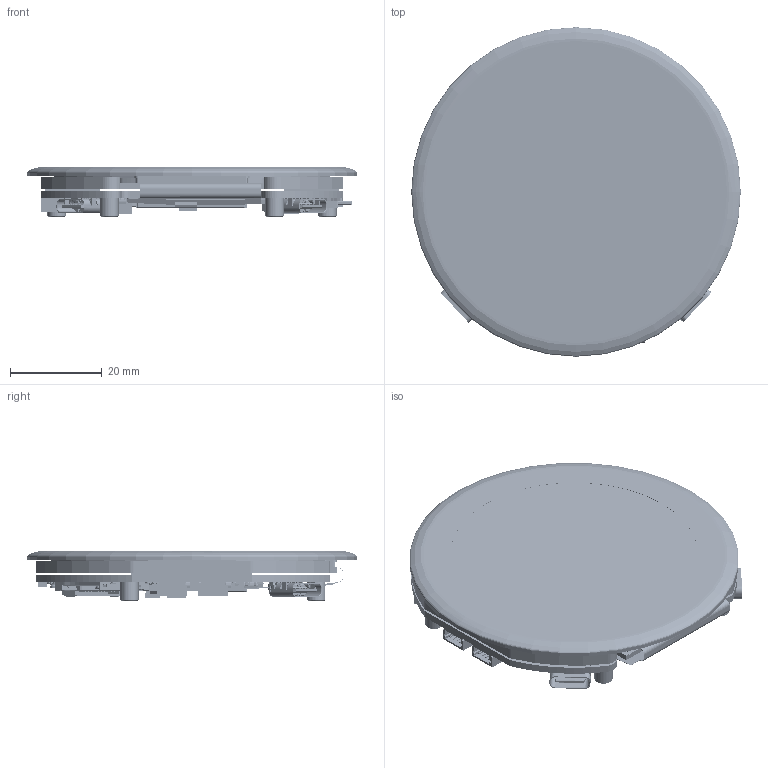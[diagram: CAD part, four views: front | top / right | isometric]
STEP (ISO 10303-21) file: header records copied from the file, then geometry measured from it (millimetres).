
FILE_DESCRIPTION((''),'2;1');
FILE_NAME('ESP32-S3-TOUCH-LCD-2_1B_ASM','2026-05-23T11:03:56',('ag'),(''),'CREO PARAMETRIC BY PTC INC, 2021063','CREO PARAMETRIC BY PTC INC, 2021063','');
FILE_SCHEMA(('CONFIG_CONTROL_DESIGN','SHAPE_APPEARANCE_LAYERS_GROUPS'));
Products named in the file (256): HD21003C30-V2-20240515_2; 2_1INCH-TP_2; 2_1INCH-LCD-TP_ASM_1_ASM; BOARD_2; USER_LIBRARY-RES_0603-0201_1_1; USER_LIBRARY-RES_0603-0201_2_1; USER_LIBRARY-RES_0603-0201_3_1; USER_LIBRARY-RES_0603-0201_4_1; USER_LIBRARY-RES_0603-0201_ASM__ASM; R58_ASM_1_ASM; R57_ASM_1_ASM; R55_ASM_1_ASM; R54_ASM_1_ASM; SOT-23_1; Q5_ASM_1_ASM; SOD523_1; D7_ASM_1_ASM; R41_ASM_1_ASM; R30_ASM_1_ASM; R1_ASM_1_ASM; R53_ASM_1_ASM; R52_ASM_1_ASM; Q4_ASM_1_ASM; FPC0_5_2H-W__1_2_30034_1_1; 7_1_2_3_4_5_6_7_8_0037_1_1; 6_1_2_3_4_5_6_7_8_0028_1_1; FPC0_5_2H-S-W-40P-30491_AF0_ASM_ASM; FPC0_5_2H-S-W-40P-6314_AF0_ASM__ASM; FPC0_5_2H-S-W-40P_ASM_1_ASM_ASM_ASM; FPC0_5_2H-S-W-40P_ASM_1_ASM; J7_ASM_1_ASM; EXTRUDED-140927_1; 1066342336_ASM_1_ASM; Y2_ASM_1_ASM; EXTRUDED-141326_1; 1066341056_ASM_1_ASM; CYLINDER-141698_1; 696914296_ASM_1_ASM; U8_ASM_1_ASM; EXTRUDED-141867_1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
Assembly tree (415 placements, depth 8):
  ESP32-S3-TOUCH-LCD-2_1B_ASM
    2_1INCH-LCD-TP_ASM_1_ASM
      HD21003C30-V2-20240515_2
      2_1INCH-TP_2
    ESP32-S3-TOUCH-LCD-2_1-PCBA_ASM
      BOARD_2
      R58_ASM_1_ASM
        USER_LIBRARY-RES_0603-0201_ASM__ASM
          USER_LIBRARY-RES_0603-0201_1_1
          USER_LIBRARY-RES_0603-0201_2_1
          USER_LIBRARY-RES_0603-0201_3_1
          USER_LIBRARY-RES_0603-0201_4_1
      R57_ASM_1_ASM
        USER_LIBRARY-RES_0603-0201_ASM__ASM
          USER_LIBRARY-RES_0603-0201_1_1
          USER_LIBRARY-RES_0603-0201_2_1
          USER_LIBRARY-RES_0603-0201_3_1
          USER_LIBRARY-RES_0603-0201_4_1
      R55_ASM_1_ASM
        USER_LIBRARY-RES_0603-0201_ASM__ASM
          USER_LIBRARY-RES_0603-0201_1_1
          USER_LIBRARY-RES_0603-0201_2_1
          USER_LIBRARY-RES_0603-0201_3_1
          USER_LIBRARY-RES_0603-0201_4_1
      R54_ASM_1_ASM
        USER_LIBRARY-RES_0603-0201_ASM__ASM
          USER_LIBRARY-RES_0603-0201_1_1
          USER_LIBRARY-RES_0603-0201_2_1
          USER_LIBRARY-RES_0603-0201_3_1
          USER_LIBRARY-RES_0603-0201_4_1
      Q5_ASM_1_ASM
        SOT-23_1
      D7_ASM_1_ASM
        SOD523_1
      R41_ASM_1_ASM
        USER_LIBRARY-RES_0603-0201_ASM__ASM
          USER_LIBRARY-RES_0603-0201_1_1
          USER_LIBRARY-RES_0603-0201_2_1
          USER_LIBRARY-RES_0603-0201_3_1
          USER_LIBRARY-RES_0603-0201_4_1
      R30_ASM_1_ASM
        USER_LIBRARY-RES_0603-0201_ASM__ASM
          USER_LIBRARY-RES_0603-0201_1_1
          USER_LIBRARY-RES_0603-0201_2_1
          USER_LIBRARY-RES_0603-0201_3_1
          USER_LIBRARY-RES_0603-0201_4_1
      R1_ASM_1_ASM
        USER_LIBRARY-RES_0603-0201_ASM__ASM
          USER_LIBRARY-RES_0603-0201_1_1
          USER_LIBRARY-RES_0603-0201_2_1
          USER_LIBRARY-RES_0603-0201_3_1
          USER_LIBRARY-RES_0603-0201_4_1
      R53_ASM_1_ASM
        USER_LIBRARY-RES_0603-0201_ASM__ASM
          USER_LIBRARY-RES_0603-0201_1_1
          USER_LIBRARY-RES_0603-0201_2_1
          USER_LIBRARY-RES_0603-0201_3_1
          USER_LIBRARY-RES_0603-0201_4_1
      R52_ASM_1_ASM
        USER_LIBRARY-RES_0603-0201_ASM__ASM
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Bounding box: 71.8 x 71.8 x 10.8 mm (x, y, z)
Volume: 22075.8 mm3; surface area: 34960 mm2
Topology: 513 solids, 549 shells, 29000 faces, 77357 edges, 50212 vertices
Faces by surface type: plane 19779, extrusion 5033, cylinder 3466, sphere 457, cone 126, torus 79, bspline 58, revolution 2
Entity records: 424672 total; most frequent: CARTESIAN_POINT 91744, ORIENTED_EDGE 57064, DIRECTION 51424, EDGE_CURVE 28551, VECTOR 24210, LINE 23536, VERTEX_POINT 18540, AXIS2_PLACEMENT_3D 13606
